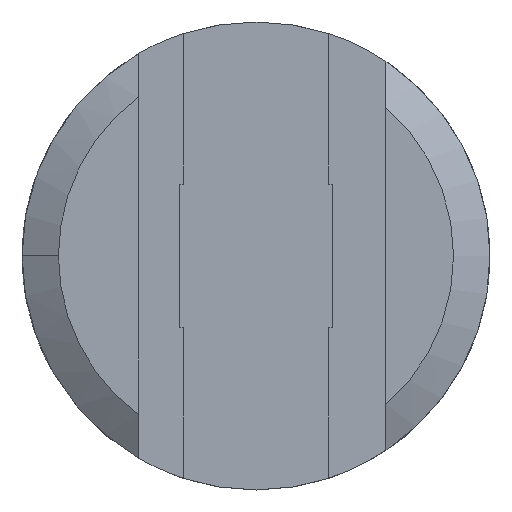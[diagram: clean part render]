
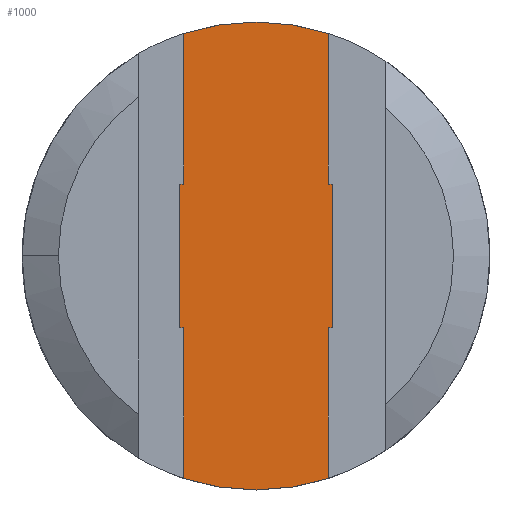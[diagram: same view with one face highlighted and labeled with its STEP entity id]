
A CAD part, top view. The second image highlights one B-rep face of the part: STEP entity #1000.
In plain terms, the highlighted planar face has unit normal (0, 0, 1).
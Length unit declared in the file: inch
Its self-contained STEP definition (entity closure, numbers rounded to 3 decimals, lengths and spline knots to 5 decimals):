
#86=CARTESIAN_POINT('',(0.,0.,0.41));
#87=DIRECTION('',(0.,0.,1.));
#88=DIRECTION('',(0.31,0.951,0.));
#89=AXIS2_PLACEMENT_3D('',#86,#87,#88);
#190=CARTESIAN_POINT('',(0.,0.,0.41));
#191=DIRECTION('',(0.,0.,1.));
#192=DIRECTION('',(-0.31,-0.951,0.));
#193=AXIS2_PLACEMENT_3D('',#190,#191,#192);
#269=DIRECTION('',(0.,1.,0.));
#270=VECTOR('',#269,0.72466);
#271=CARTESIAN_POINT('',(0.3485,0.345,
0.41));
#272=LINE('',#271,#270);
#273=DIRECTION('',(-1.,0.,0.));
#274=VECTOR('',#273,0.019);
#275=CARTESIAN_POINT('',(0.3675,0.345,0.41));
#276=LINE('',#275,#274);
#277=DIRECTION('',(0.,1.,0.));
#278=VECTOR('',#277,0.69);
#279=CARTESIAN_POINT('',(0.3675,-0.345,0.41));
#280=LINE('',#279,#278);
#281=DIRECTION('',(1.,0.,0.));
#282=VECTOR('',#281,0.019);
#283=CARTESIAN_POINT('',(0.3485,-0.345,
0.41));
#284=LINE('',#283,#282);
#285=DIRECTION('',(0.,1.,0.));
#286=VECTOR('',#285,0.72466);
#287=CARTESIAN_POINT('',(0.3485,-1.06966,
0.41));
#288=LINE('',#287,#286);
#289=DIRECTION('',(0.,1.,0.));
#290=VECTOR('',#289,0.69);
#291=CARTESIAN_POINT('',(-0.3675,-0.345,0.41));
#292=LINE('',#291,#290);
#293=DIRECTION('',(0.,1.,0.));
#294=VECTOR('',#293,0.72466);
#295=CARTESIAN_POINT('',(-0.3485,0.345,
0.41));
#296=LINE('',#295,#294);
#331=DIRECTION('',(1.,0.,0.));
#332=VECTOR('',#331,0.019);
#333=CARTESIAN_POINT('',(-0.3675,0.345,0.41));
#334=LINE('',#333,#332);
#343=DIRECTION('',(-1.,0.,0.));
#344=VECTOR('',#343,0.019);
#345=CARTESIAN_POINT('',(-0.3485,-0.345,
0.41));
#346=LINE('',#345,#344);
#351=DIRECTION('',(0.,1.,0.));
#352=VECTOR('',#351,0.72466);
#353=CARTESIAN_POINT('',(-0.3485,-1.06966,
0.41));
#354=LINE('',#353,#352);
#555=CARTESIAN_POINT('',(0.3485,1.06966,0.41));
#557=VERTEX_POINT('',#555);
#560=CARTESIAN_POINT('',(-0.3485,1.06966,
0.41));
#562=VERTEX_POINT('',#560);
#597=CARTESIAN_POINT('',(-0.3485,-1.06966,
0.41));
#599=VERTEX_POINT('',#597);
#602=CARTESIAN_POINT('',(0.3485,-1.06966,
0.41));
#604=VERTEX_POINT('',#602);
#613=CARTESIAN_POINT('',(0.3485,0.345,
0.41));
#614=VERTEX_POINT('',#613);
#615=CARTESIAN_POINT('',(0.3675,0.345,0.41));
#616=VERTEX_POINT('',#615);
#617=CARTESIAN_POINT('',(0.3675,-0.345,0.41));
#618=VERTEX_POINT('',#617);
#619=CARTESIAN_POINT('',(0.3485,-0.345,
0.41));
#620=VERTEX_POINT('',#619);
#621=CARTESIAN_POINT('',(-0.3485,0.345,
0.41));
#622=VERTEX_POINT('',#621);
#631=CARTESIAN_POINT('',(-0.3675,0.345,0.41));
#632=VERTEX_POINT('',#631);
#633=CARTESIAN_POINT('',(-0.3675,-0.345,0.41));
#634=VERTEX_POINT('',#633);
#635=CARTESIAN_POINT('',(-0.3485,-0.345,
0.41));
#636=VERTEX_POINT('',#635);
#972=CARTESIAN_POINT('',(0.,0.,0.41));
#973=DIRECTION('',(0.,0.,1.));
#974=DIRECTION('',(1.,0.,0.));
#975=AXIS2_PLACEMENT_3D('',#972,#973,#974);
#976=PLANE('',#975);
#978=ORIENTED_EDGE('',*,*,#977,.T.);
#979=ORIENTED_EDGE('',*,*,#786,.F.);
#981=ORIENTED_EDGE('',*,*,#980,.F.);
#983=ORIENTED_EDGE('',*,*,#982,.F.);
#985=ORIENTED_EDGE('',*,*,#984,.F.);
#987=ORIENTED_EDGE('',*,*,#986,.F.);
#988=ORIENTED_EDGE('',*,*,#958,.F.);
#989=ORIENTED_EDGE('',*,*,#857,.F.);
#991=ORIENTED_EDGE('',*,*,#990,.T.);
#993=ORIENTED_EDGE('',*,*,#992,.T.);
#995=ORIENTED_EDGE('',*,*,#994,.T.);
#997=ORIENTED_EDGE('',*,*,#996,.T.);
#998=EDGE_LOOP('',(#978,#979,#981,#983,#985,#987,#988,#989,#991,#993,#995,
#997));
#999=FACE_OUTER_BOUND('',#998,.F.);
#90=CIRCLE('',#89,1.125);
#194=CIRCLE('',#193,1.125);
#786=EDGE_CURVE('',#557,#562,#90,.T.);
#857=EDGE_CURVE('',#599,#604,#194,.T.);
#958=EDGE_CURVE('',#604,#620,#288,.T.);
#977=EDGE_CURVE('',#622,#562,#296,.T.);
#980=EDGE_CURVE('',#614,#557,#272,.T.);
#982=EDGE_CURVE('',#616,#614,#276,.T.);
#984=EDGE_CURVE('',#618,#616,#280,.T.);
#986=EDGE_CURVE('',#620,#618,#284,.T.);
#990=EDGE_CURVE('',#599,#636,#354,.T.);
#992=EDGE_CURVE('',#636,#634,#346,.T.);
#994=EDGE_CURVE('',#634,#632,#292,.T.);
#996=EDGE_CURVE('',#632,#622,#334,.T.);
#1000=ADVANCED_FACE('',(#999),#976,.T.);
